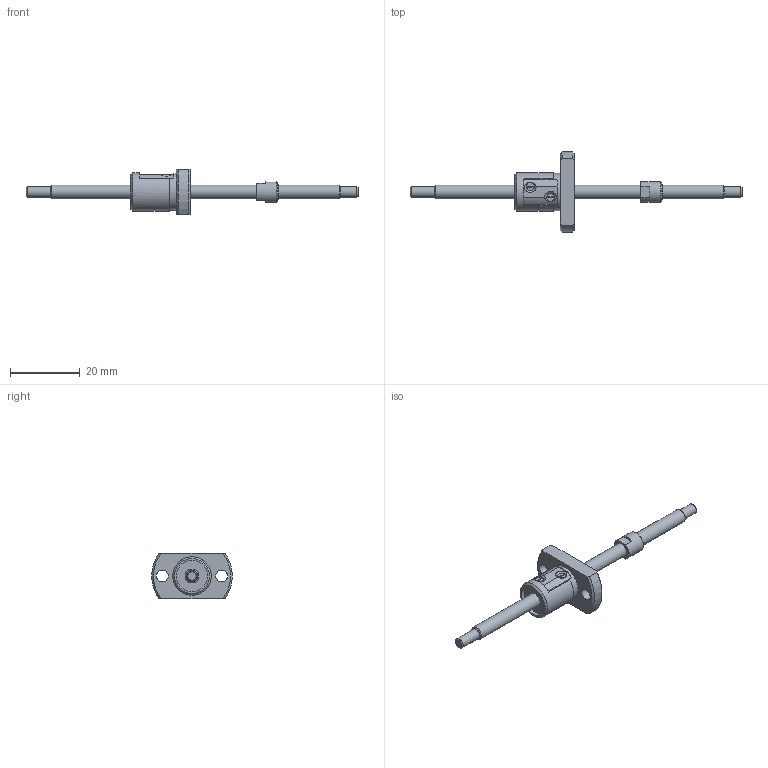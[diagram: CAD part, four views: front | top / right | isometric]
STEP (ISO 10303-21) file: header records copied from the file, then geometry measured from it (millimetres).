
FILE_DESCRIPTION(/* description */ ('STEP AP214'),/* implementation_level */ '2;1');
FILE_NAME(/* name */ 'SG0401-056R095C3C0X(23)',/* time_stamp */ '2026-07-20T19:38:24+02:00',/* author */ ('License CC BY-ND 4.0'),/* organization */ ('CADENAS'),/* preprocessor_version */ 'ST-DEVELOPER v20',/* originating_system */ 'PARTsolutions',/* authorisation */ ' ');
FILE_SCHEMA (('AUTOMOTIVE_DESIGN {1 0 10303 214 3 1 1}'));
Length unit declared in the file: millimetre
Products named in the file (3): SG0401-056R095C3C0X(23); SG0401-56R95C3C_shaft; SG0401_nut
Assembly tree (2 placements, depth 2):
  SG0401-056R095C3C0X(23)
    SG0401-56R95C3C_shaft
    SG0401_nut
Bounding box: 95 x 22.92 x 13 mm (x, y, z)
Volume: 3135.1 mm3; surface area: 2789.3 mm2
Topology: 2 solids, 2 shells, 74 faces, 178 edges, 117 vertices
Faces by surface type: plane 35, cylinder 24, cone 14, torus 1
Full cylindrical faces by diameter (mm): 3 x2, 3.4 x2, 4 x3, 6 x1, 9 x2, 10.6 x1, 11 x1
Entity records: 2085 total; most frequent: CARTESIAN_POINT 389, DIRECTION 352, ORIENTED_EDGE 292, AXIS2_PLACEMENT_3D 147, EDGE_CURVE 146, EDGE_LOOP 112, FACE_BOUND 112, VERTEX_POINT 108
